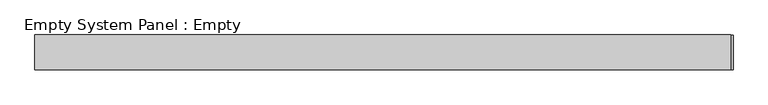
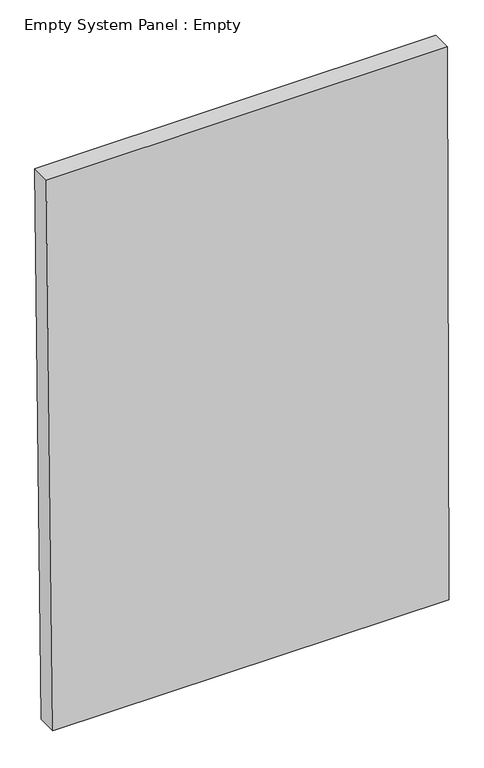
"""IFC4 building model written with IfcOpenShell, lengths in millimetres: plate geometry, Empty System Panel : Empty."""

from ifc_helpers import new_model, si_unit, frame, origin, place, context, project, spatial, polyline, outline, extrude, source, transform, mapped, element, save


def empty_system_panel_empty_6bcfcd67(model_context):
    return source(origin(), model_context, "Body", "SweptSolid", [
        extrude(outline(polyline([(0.0, -991.61709), (0.0, 1025.0218736), (2977.218936, 1017.71683), (2975.146298, -1025.0218736), (0.0, -991.61709)])), frame((0.0, -50.8, 0.0), z_axis=(0.0, 1.0, 0.0), x_axis=(0.0, 0.0, 1.0)), (0.0, 0.0, 1.0), 101.6),
    ])


if __name__ == "__main__":
    model = new_model("IFC4")
    model_context = context("Model", 3, world=origin())
    ifc_project = project(units=[si_unit("LENGTHUNIT", "METRE", prefix="MILLI")], contexts=[model_context])
    site = spatial("IfcSite", under=ifc_project)
    building = spatial("IfcBuilding", under=site)
    placement = place(None, origin())
    empty_system_panel_empty_shape = empty_system_panel_empty_6bcfcd67(model_context)
    element("IfcPlate", 1, ObjectType="Empty System Panel : Empty", at=placement, inside=building, context=model_context, shape_type="MappedRepresentation", body=[
        mapped(empty_system_panel_empty_shape, transform((0.0, 0.0, 0.0), x_axis=(1.0, 0.0, 0.0), y_axis=(0.0, 1.0, 0.0), z_axis=(0.0, 0.0, 1.0))),
    ])
    save(model, "model.ifc")
